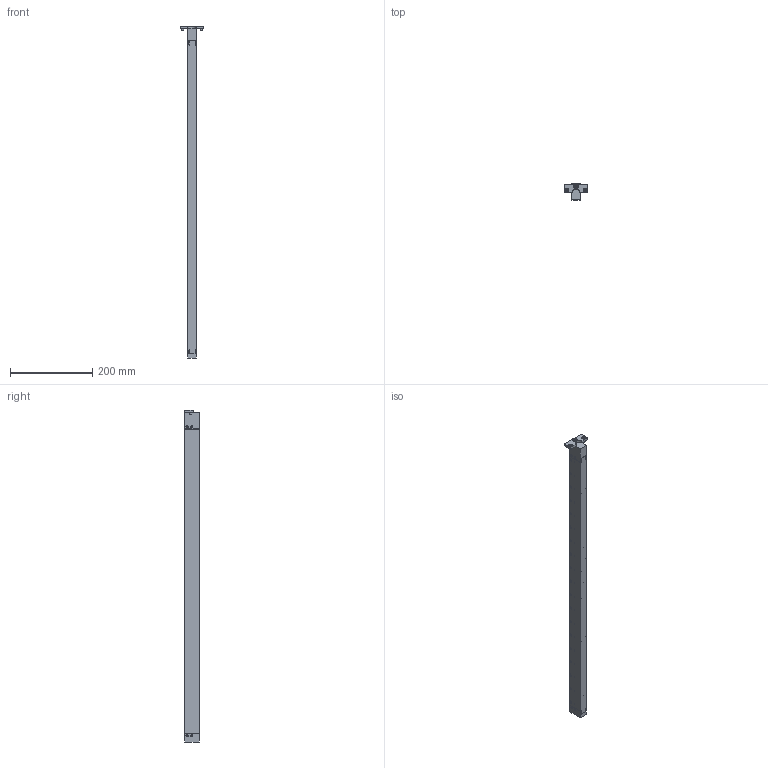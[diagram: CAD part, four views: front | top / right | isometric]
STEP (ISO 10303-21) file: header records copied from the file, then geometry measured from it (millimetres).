
FILE_DESCRIPTION(/* description */ (''),/* implementation_level */ '2;1');
FILE_NAME(/* name */ 'S:\EASCN Vault\Designs\Standard Part\DIE LIFTERS\EHB\EHB- 3D step\EHB22 - 3D step complete serie\EHB 22-19.stp',/* time_stamp */ '2019-11-21T14:41:20+08:00',/* author */ ('yue.yang'),/* organization */ (''),/* preprocessor_version */ 'ST-DEVELOPER v17',/* originating_system */ 'Autodesk Inventor 2019',/* authorisation */ '');
FILE_SCHEMA (('AUTOMOTIVE_DESIGN { 1 0 10303 214 3 1 1 }'));
Length unit declared in the file: millimetre
Products named in the file (1): EHB 22-19
Bounding box: 58 x 37.8 x 806 mm (x, y, z)
Volume: 519481.9 mm3; surface area: 204872.5 mm2
Topology: 69 solids, 69 shells, 674 faces, 1851 edges, 1335 vertices
Faces by surface type: plane 244, cylinder 211, cone 105, torus 95, sphere 19
Full cylindrical faces by diameter (mm): 3 x2, 4.134 x1, 5 x15, 5.5 x4, 6 x20, 6.647 x1, 8 x1, 10 x6, 12.2 x19, 16 x19, 16.4 x19, 17.05 x19, 19.05 x19, 19.2 x19
Entity records: 25123 total; most frequent: CARTESIAN_POINT 6200, DIRECTION 4104, ORIENTED_EDGE 3578, AXIS2_PLACEMENT_3D 1805, EDGE_CURVE 1789, VERTEX_POINT 1335, CIRCLE 1128, EDGE_LOOP 866
